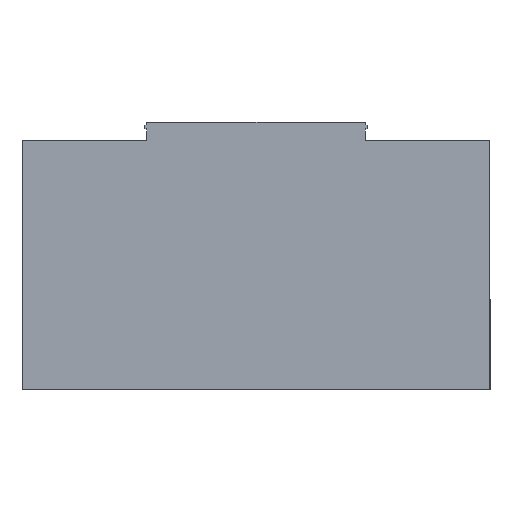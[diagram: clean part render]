
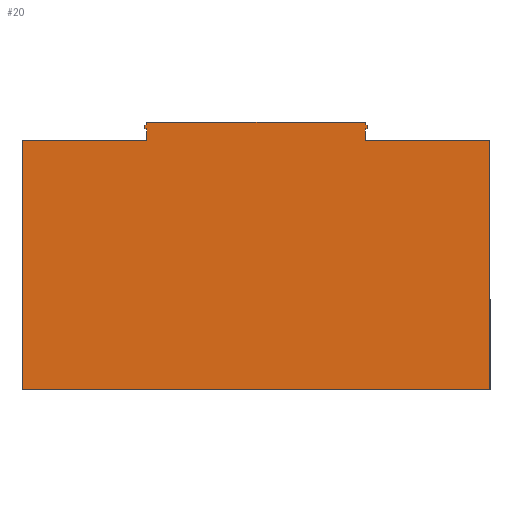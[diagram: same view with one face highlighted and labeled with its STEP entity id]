
A CAD part, left-side view. The second image highlights one B-rep face of the part: STEP entity #20.
In plain terms, the highlighted planar face has unit normal (-1, 0, 0).
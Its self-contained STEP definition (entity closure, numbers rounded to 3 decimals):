
#4 = CARTESIAN_POINT ( 'NONE',  ( -62.3, 38.5, 1.8 ) ) ;
#10 = LINE ( 'NONE', #530, #150 ) ;
#17 = EDGE_CURVE ( 'NONE', #87, #68, #683, .T. ) ;
#20 = ADVANCED_FACE ( 'NONE', ( #133 ), #953, .T. ) ;
#32 = EDGE_CURVE ( 'NONE', #71, #503, #587, .T. ) ;
#41 = ORIENTED_EDGE ( 'NONE', *, *, #840, .F. ) ;
#48 = VERTEX_POINT ( 'NONE', #77 ) ;
#49 = DIRECTION ( 'NONE',  ( 0., -1., 0. ) ) ;
#50 = ORIENTED_EDGE ( 'NONE', *, *, #244, .F. ) ;
#58 = DIRECTION ( 'NONE',  ( 0., 0., 1. ) ) ;
#68 = VERTEX_POINT ( 'NONE', #358 ) ;
#71 = VERTEX_POINT ( 'NONE', #238 ) ;
#77 = CARTESIAN_POINT ( 'NONE',  ( -62.3, 18., 1.8 ) ) ;
#82 = LINE ( 'NONE', #425, #389 ) ;
#86 = CARTESIAN_POINT ( 'NONE',  ( -62.3, -18., 3.711 ) ) ;
#87 = VERTEX_POINT ( 'NONE', #173 ) ;
#93 = LINE ( 'NONE', #672, #116 ) ;
#112 = DIRECTION ( 'NONE',  ( 0., 0., -1. ) ) ;
#115 = VECTOR ( 'NONE', #883, 1000. ) ;
#116 = VECTOR ( 'NONE', #680, 1000. ) ;
#133 = FACE_OUTER_BOUND ( 'NONE', #508, .T. ) ;
#135 = EDGE_CURVE ( 'NONE', #215, #219, #371, .T. ) ;
#137 = LINE ( 'NONE', #889, #276 ) ;
#139 = CARTESIAN_POINT ( 'NONE',  ( -62.3, 38.7, -39.2 ) ) ;
#140 = ORIENTED_EDGE ( 'NONE', *, *, #383, .F. ) ;
#145 = DIRECTION ( 'NONE',  ( 0., -0.94, 0.342 ) ) ;
#150 = VECTOR ( 'NONE', #145, 1000. ) ;
#151 = VECTOR ( 'NONE', #49, 1000. ) ;
#162 = CARTESIAN_POINT ( 'NONE',  ( -62.3, -18.3, 4.32 ) ) ;
#165 = LINE ( 'NONE', #660, #313 ) ;
#173 = CARTESIAN_POINT ( 'NONE',  ( -62.3, -18., 1.8 ) ) ;
#177 = LINE ( 'NONE', #242, #730 ) ;
#200 = ORIENTED_EDGE ( 'NONE', *, *, #260, .F. ) ;
#207 = CARTESIAN_POINT ( 'NONE',  ( -62.3, -18., -39.4 ) ) ;
#211 = CARTESIAN_POINT ( 'NONE',  ( -62.3, 17.981, 17.525 ) ) ;
#215 = VERTEX_POINT ( 'NONE', #767 ) ;
#217 = DIRECTION ( 'NONE',  ( 0., -0.94, -0.342 ) ) ;
#219 = VERTEX_POINT ( 'NONE', #920 ) ;
#234 = DIRECTION ( 'NONE',  ( 0., 0., 1. ) ) ;
#237 = VECTOR ( 'NONE', #217, 1000. ) ;
#238 = CARTESIAN_POINT ( 'NONE',  ( -62.3, -38.5, -39.2 ) ) ;
#241 = LINE ( 'NONE', #319, #362 ) ;
#242 = CARTESIAN_POINT ( 'NONE',  ( -62.3, 18., -39.4 ) ) ;
#243 = ORIENTED_EDGE ( 'NONE', *, *, #557, .T. ) ;
#244 = EDGE_CURVE ( 'NONE', #702, #860, #241, .T. ) ;
#250 = VERTEX_POINT ( 'NONE', #688 ) ;
#260 = EDGE_CURVE ( 'NONE', #860, #87, #465, .T. ) ;
#276 = VECTOR ( 'NONE', #58, 1000. ) ;
#277 = ORIENTED_EDGE ( 'NONE', *, *, #402, .F. ) ;
#286 = CARTESIAN_POINT ( 'NONE',  ( -62.3, 38.7, -39.4 ) ) ;
#290 = CARTESIAN_POINT ( 'NONE',  ( -62.3, 18., 4.8 ) ) ;
#291 = VERTEX_POINT ( 'NONE', #618 ) ;
#293 = ORIENTED_EDGE ( 'NONE', *, *, #545, .F. ) ;
#295 = ORIENTED_EDGE ( 'NONE', *, *, #832, .T. ) ;
#297 = DIRECTION ( 'NONE',  ( 0., -1., 0. ) ) ;
#301 = VECTOR ( 'NONE', #112, 1000. ) ;
#313 = VECTOR ( 'NONE', #736, 1000. ) ;
#319 = CARTESIAN_POINT ( 'NONE',  ( -62.3, 45.923, -19.555 ) ) ;
#333 = CARTESIAN_POINT ( 'NONE',  ( -62.3, 38.5, -39.2 ) ) ;
#342 = ORIENTED_EDGE ( 'NONE', *, *, #135, .F. ) ;
#358 = CARTESIAN_POINT ( 'NONE',  ( -62.3, -38.5, 1.8 ) ) ;
#361 = CARTESIAN_POINT ( 'NONE',  ( -62.3, -18.3, -39.4 ) ) ;
#362 = VECTOR ( 'NONE', #911, 1000. ) ;
#366 = ORIENTED_EDGE ( 'NONE', *, *, #17, .F. ) ;
#370 = CARTESIAN_POINT ( 'NONE',  ( -62.3, 18.3, 4.32 ) ) ;
#371 = LINE ( 'NONE', #893, #930 ) ;
#374 = ORIENTED_EDGE ( 'NONE', *, *, #661, .F. ) ;
#383 = EDGE_CURVE ( 'NONE', #446, #48, #165, .T. ) ;
#389 = VECTOR ( 'NONE', #734, 1000. ) ;
#402 = EDGE_CURVE ( 'NONE', #429, #250, #10, .T. ) ;
#406 = DIRECTION ( 'NONE',  ( 0., 0., -1. ) ) ;
#408 = EDGE_CURVE ( 'NONE', #653, #291, #809, .T. ) ;
#425 = CARTESIAN_POINT ( 'NONE',  ( -62.3, -38.5, 5. ) ) ;
#429 = VERTEX_POINT ( 'NONE', #370 ) ;
#430 = VECTOR ( 'NONE', #652, 1000. ) ;
#446 = VERTEX_POINT ( 'NONE', #4 ) ;
#454 = CARTESIAN_POINT ( 'NONE',  ( -62.3, 18., -39.4 ) ) ;
#465 = LINE ( 'NONE', #548, #906 ) ;
#503 = VERTEX_POINT ( 'NONE', #333 ) ;
#508 = EDGE_LOOP ( 'NONE', ( #140, #295, #717, #243, #366, #200, #50, #804, #374, #565, #912, #41, #277, #293, #342, #842 ) ) ;
#512 = CARTESIAN_POINT ( 'NONE',  ( -62.3, -18., 4.429 ) ) ;
#513 = LINE ( 'NONE', #361, #430 ) ;
#526 = EDGE_CURVE ( 'NONE', #837, #702, #513, .T. ) ;
#530 = CARTESIAN_POINT ( 'NONE',  ( -62.3, 50.365, -7.351 ) ) ;
#534 = VECTOR ( 'NONE', #297, 1000. ) ;
#535 = AXIS2_PLACEMENT_3D ( 'NONE', #286, #635, #570 ) ;
#545 = EDGE_CURVE ( 'NONE', #219, #429, #137, .T. ) ;
#548 = CARTESIAN_POINT ( 'NONE',  ( -62.3, -18., -39.4 ) ) ;
#557 = EDGE_CURVE ( 'NONE', #71, #68, #82, .T. ) ;
#565 = ORIENTED_EDGE ( 'NONE', *, *, #682, .F. ) ;
#570 = DIRECTION ( 'NONE',  ( 0., -1., 0. ) ) ;
#587 = LINE ( 'NONE', #139, #115 ) ;
#589 = DIRECTION ( 'NONE',  ( 0., 0.94, 0.342 ) ) ;
#601 = LINE ( 'NONE', #454, #649 ) ;
#618 = CARTESIAN_POINT ( 'NONE',  ( -62.3, -18., 4.8 ) ) ;
#635 = DIRECTION ( 'NONE',  ( -1., 0., 0. ) ) ;
#640 = CARTESIAN_POINT ( 'NONE',  ( -62.3, -18.3, 3.82 ) ) ;
#649 = VECTOR ( 'NONE', #743, 1000. ) ;
#652 = DIRECTION ( 'NONE',  ( 0., 0., -1. ) ) ;
#653 = VERTEX_POINT ( 'NONE', #290 ) ;
#660 = CARTESIAN_POINT ( 'NONE',  ( -62.3, 38.7, 1.8 ) ) ;
#661 = EDGE_CURVE ( 'NONE', #740, #837, #876, .T. ) ;
#672 = CARTESIAN_POINT ( 'NONE',  ( -62.3, 38.5, 5. ) ) ;
#680 = DIRECTION ( 'NONE',  ( 0., 0., -1. ) ) ;
#682 = EDGE_CURVE ( 'NONE', #291, #740, #722, .T. ) ;
#683 = LINE ( 'NONE', #718, #151 ) ;
#688 = CARTESIAN_POINT ( 'NONE',  ( -62.3, 18., 4.429 ) ) ;
#702 = VERTEX_POINT ( 'NONE', #640 ) ;
#717 = ORIENTED_EDGE ( 'NONE', *, *, #32, .F. ) ;
#718 = CARTESIAN_POINT ( 'NONE',  ( -62.3, 38.7, 1.8 ) ) ;
#722 = LINE ( 'NONE', #207, #301 ) ;
#729 = CARTESIAN_POINT ( 'NONE',  ( -62.3, 38.7, 4.8 ) ) ;
#730 = VECTOR ( 'NONE', #234, 1000. ) ;
#734 = DIRECTION ( 'NONE',  ( 0., 0., 1. ) ) ;
#736 = DIRECTION ( 'NONE',  ( 0., -1., 0. ) ) ;
#740 = VERTEX_POINT ( 'NONE', #512 ) ;
#743 = DIRECTION ( 'NONE',  ( 0., 0., 1. ) ) ;
#756 = EDGE_CURVE ( 'NONE', #48, #215, #177, .T. ) ;
#767 = CARTESIAN_POINT ( 'NONE',  ( -62.3, 18., 3.711 ) ) ;
#804 = ORIENTED_EDGE ( 'NONE', *, *, #526, .F. ) ;
#809 = LINE ( 'NONE', #729, #534 ) ;
#832 = EDGE_CURVE ( 'NONE', #446, #503, #93, .T. ) ;
#837 = VERTEX_POINT ( 'NONE', #162 ) ;
#840 = EDGE_CURVE ( 'NONE', #250, #653, #601, .T. ) ;
#842 = ORIENTED_EDGE ( 'NONE', *, *, #756, .F. ) ;
#860 = VERTEX_POINT ( 'NONE', #86 ) ;
#876 = LINE ( 'NONE', #211, #237 ) ;
#883 = DIRECTION ( 'NONE',  ( 0., 1., 0. ) ) ;
#889 = CARTESIAN_POINT ( 'NONE',  ( -62.3, 18.3, -39.4 ) ) ;
#893 = CARTESIAN_POINT ( 'NONE',  ( -62.3, 22.423, 5.321 ) ) ;
#906 = VECTOR ( 'NONE', #406, 1000. ) ;
#911 = DIRECTION ( 'NONE',  ( 0., 0.94, -0.342 ) ) ;
#912 = ORIENTED_EDGE ( 'NONE', *, *, #408, .F. ) ;
#920 = CARTESIAN_POINT ( 'NONE',  ( -62.3, 18.3, 3.82 ) ) ;
#930 = VECTOR ( 'NONE', #589, 1000. ) ;
#953 = PLANE ( 'NONE',  #535 ) ;
